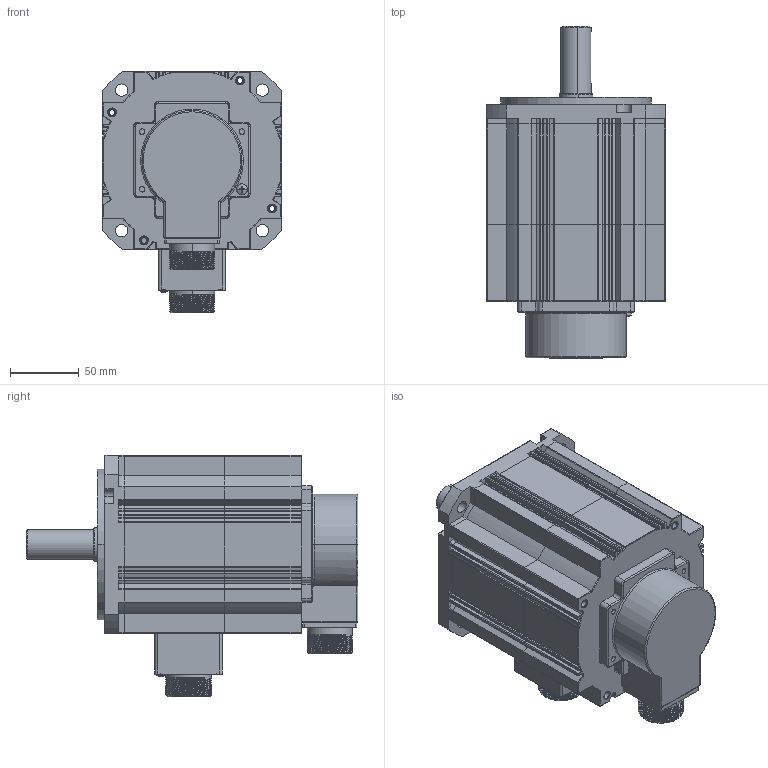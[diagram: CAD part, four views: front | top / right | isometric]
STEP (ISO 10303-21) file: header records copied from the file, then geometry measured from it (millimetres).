
FILE_DESCRIPTION (( 'STEP AP203' ), '1' );
FILE_NAME ('WF130ST-Z1M047720.STEP', '2021-07-26T09:31:54', ( '' ), ( '' ), 'SwSTEP 2.0', 'SolidWorks 2018', '' );
FILE_SCHEMA (( 'CONFIG_CONTROL_DESIGN' ));
Length unit declared in the file: millimetre
Products named in the file (17): 盓傅啣; cross recessed pan head screws gb_GB_CROSS_SCREWS_TYPE1 M4X12-12  H type-N; deep groove ball bearings gb_Rolling bearings 6205 GB 276-94; ヶ傷裔; 晤鎢欶裔; 瑤脣裔; 晤鎢ん; 粣; deep groove ball bearings gb_Rolling bearings 6204 GB 276-94; cross recessed pan head screws gb_GB_CROSS_SCREWS_TYPE1 M3X12-12  H type-N; 惕掅綴傷裔; 瑤脣窒煦; jike; 脣釱1; hexagon socket head cap screws gb_GB_FASTENER_SCREWS_HSHCS M5X20-N; WF130ST-Z1M047720; 蛌赽軞傖
Assembly tree (20 placements, depth 3):
  WF130ST-Z1M047720
    jike
    瑤脣窒煦
      瑤脣裔
      脣釱1
      盓傅啣
    ヶ傷裔
    晤鎢欶裔
    脣釱1
    hexagon socket head cap screws gb_GB_FASTENER_SCREWS_HSHCS M5X20-N
    cross recessed pan head screws gb_GB_CROSS_SCREWS_TYPE1 M4X12-12  H type-N
    cross recessed pan head screws gb_GB_CROSS_SCREWS_TYPE1 M3X12-12  H type-N  x2
    晤鎢ん
    蛌赽軞傖
      粣
      deep groove ball bearings gb_Rolling bearings 6205 GB 276-94  x2
      deep groove ball bearings gb_Rolling bearings 6204 GB 276-94  x2
    惕掅綴傷裔
Bounding box: 130 x 242 x 176 mm (x, y, z)
Volume: 1074939.4 mm3; surface area: 392400.2 mm2
Topology: 18 solids, 18 shells, 2235 faces, 6566 edges, 4157 vertices
Faces by surface type: cylinder 919, plane 585, torus 401, sphere 196, bspline 114, cone 20
Entity records: 69891 total; most frequent: CARTESIAN_POINT 21097, ORIENTED_EDGE 10054, DIRECTION 9892, EDGE_CURVE 5027, AXIS2_PLACEMENT_3D 3951, VERTEX_POINT 3161, CIRCLE 2133, EDGE_LOOP 2064
